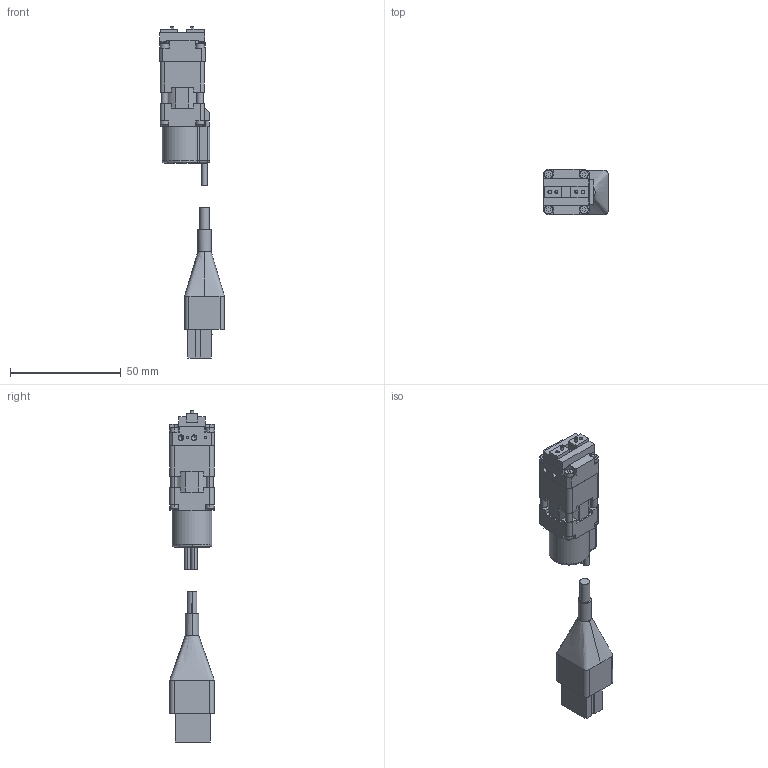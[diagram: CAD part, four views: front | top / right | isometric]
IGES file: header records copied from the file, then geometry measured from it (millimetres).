
Start section: SolidWorks IGES file using analytic representation for surfaces
Global section: file name: G:\SW2007図面\TAIYO\電動機器３Ｄ\電動グリッパ　２爪\ESG1-SS-2005-3N.IGS; native system: SolidWorks 2007; preprocessor: SolidWorks 2007; author: 風音庵,,1; organization: 1; date: 090212.182451; units: millimetre
Bounding box: 29.25 x 20.5 x 149.69 mm (x, y, z)
Surface area: 13421.5 mm2 (no closed solid volume)
Topology: 0 solids, 0 shells, 478 faces, 4443 edges, 4435 vertices
Faces by surface type: bspline 354, revolution 124
